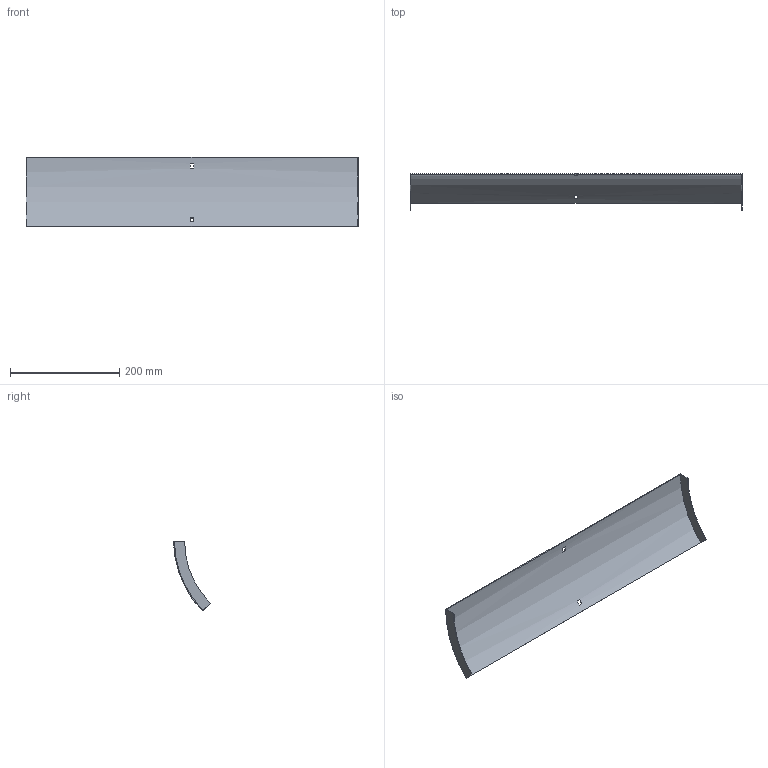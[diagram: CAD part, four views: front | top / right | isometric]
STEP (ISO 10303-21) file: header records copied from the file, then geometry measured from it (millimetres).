
FILE_DESCRIPTION (( 'STEP AP214' ), '1' );
FILE_NAME ('34N1C600.step', '2025-02-21T09:16:12', ( '' ), ( '' ), 'SwSTEP 2.0', 'SolidWorks 2023', '' );
FILE_SCHEMA (( 'AUTOMOTIVE_DESIGN' ));
Length unit declared in the file: millimetre
Products named in the file (1): 34N1C600
Bounding box: 607 x 67.01 x 127.63 mm (x, y, z)
Volume: 135763.2 mm3; surface area: 183422.9 mm2
Topology: 1 solids, 1 shells, 18 faces, 48 edges, 32 vertices
Faces by surface type: plane 14, cylinder 4
Entity records: 599 total; most frequent: DIRECTION 102, CARTESIAN_POINT 99, ORIENTED_EDGE 96, EDGE_CURVE 48, AXIS2_PLACEMENT_3D 35, VERTEX_POINT 32, VECTOR 32, LINE 32
